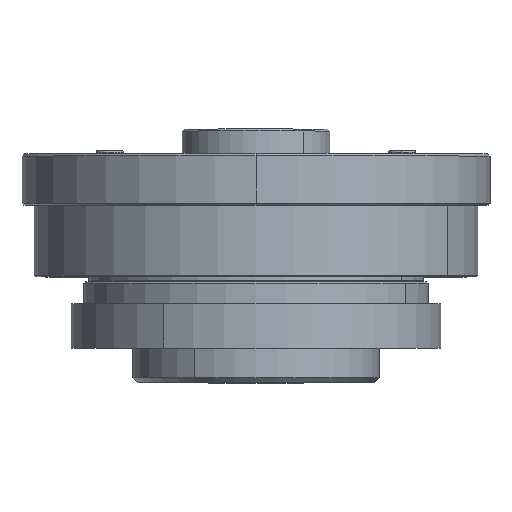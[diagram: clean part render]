
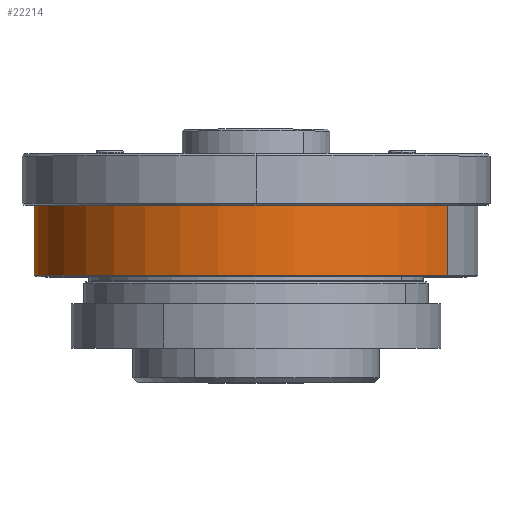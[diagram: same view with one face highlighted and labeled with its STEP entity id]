
A CAD part, top view. The second image highlights one B-rep face of the part: STEP entity #22214.
In plain terms, the highlighted cylindrical face has radius 45 mm (diameter 90 mm), a partial arc.
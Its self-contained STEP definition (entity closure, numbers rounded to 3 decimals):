
#1000 = ORIENTED_EDGE ( 'NONE', *, *, #19526, .T. ) ;
#1079 = DIRECTION ( 'NONE',  ( 0., 0., -1. ) ) ;
#3297 = ORIENTED_EDGE ( 'NONE', *, *, #28388, .F. ) ;
#4813 = CYLINDRICAL_SURFACE ( 'NONE', #12233, 45. ) ;
#5156 = VERTEX_POINT ( 'NONE', #7522 ) ;
#6253 = EDGE_CURVE ( 'NONE', #5156, #27573, #16334, .T. ) ;
#6274 = CIRCLE ( 'NONE', #18972, 45. ) ;
#6506 = LINE ( 'NONE', #24973, #13294 ) ;
#7522 = CARTESIAN_POINT ( 'NONE',  ( 17.2, 0., -45. ) ) ;
#8221 = CARTESIAN_POINT ( 'NONE',  ( 0.3, 0., -45. ) ) ;
#8921 = CARTESIAN_POINT ( 'NONE',  ( 17.2, 0., 0. ) ) ;
#9116 = DIRECTION ( 'NONE',  ( -1., 0., 0. ) ) ;
#10904 = FACE_OUTER_BOUND ( 'NONE', #28589, .T. ) ;
#11075 = LINE ( 'NONE', #28569, #18465 ) ;
#11223 = DIRECTION ( 'NONE',  ( 0., 0., 1. ) ) ;
#11264 = ORIENTED_EDGE ( 'NONE', *, *, #6253, .T. ) ;
#12233 = AXIS2_PLACEMENT_3D ( 'NONE', #26244, #23935, #28546 ) ;
#12661 = CARTESIAN_POINT ( 'NONE',  ( 17.2, 0., 45. ) ) ;
#13294 = VECTOR ( 'NONE', #9116, 1000. ) ;
#13481 = CARTESIAN_POINT ( 'NONE',  ( 0.3, 0., 45. ) ) ;
#14662 = DIRECTION ( 'NONE',  ( 1., 0., 0. ) ) ;
#16334 = CIRCLE ( 'NONE', #16907, 45. ) ;
#16907 = AXIS2_PLACEMENT_3D ( 'NONE', #8921, #24797, #11223 ) ;
#17204 = DIRECTION ( 'NONE',  ( -1., 0., 0. ) ) ;
#18465 = VECTOR ( 'NONE', #17204, 1000. ) ;
#18524 = VERTEX_POINT ( 'NONE', #8221 ) ;
#18972 = AXIS2_PLACEMENT_3D ( 'NONE', #28281, #14662, #1079 ) ;
#19526 = EDGE_CURVE ( 'NONE', #20358, #18524, #6274, .T. ) ;
#20358 = VERTEX_POINT ( 'NONE', #13481 ) ;
#21138 = ORIENTED_EDGE ( 'NONE', *, *, #23732, .T. ) ;
#22214 = ADVANCED_FACE ( 'NONE', ( #10904 ), #4813, .T. ) ;
#23732 = EDGE_CURVE ( 'NONE', #27573, #20358, #6506, .T. ) ;
#23935 = DIRECTION ( 'NONE',  ( -1., 0., 0. ) ) ;
#24797 = DIRECTION ( 'NONE',  ( -1., 0., 0. ) ) ;
#24973 = CARTESIAN_POINT ( 'NONE',  ( 0., 0., 45. ) ) ;
#26244 = CARTESIAN_POINT ( 'NONE',  ( 0., 0., 0. ) ) ;
#27573 = VERTEX_POINT ( 'NONE', #12661 ) ;
#28281 = CARTESIAN_POINT ( 'NONE',  ( 0.3, 0., 0. ) ) ;
#28388 = EDGE_CURVE ( 'NONE', #5156, #18524, #11075, .T. ) ;
#28546 = DIRECTION ( 'NONE',  ( 0., 0., 1. ) ) ;
#28569 = CARTESIAN_POINT ( 'NONE',  ( 0., 0., -45. ) ) ;
#28589 = EDGE_LOOP ( 'NONE', ( #3297, #11264, #21138, #1000 ) ) ;
